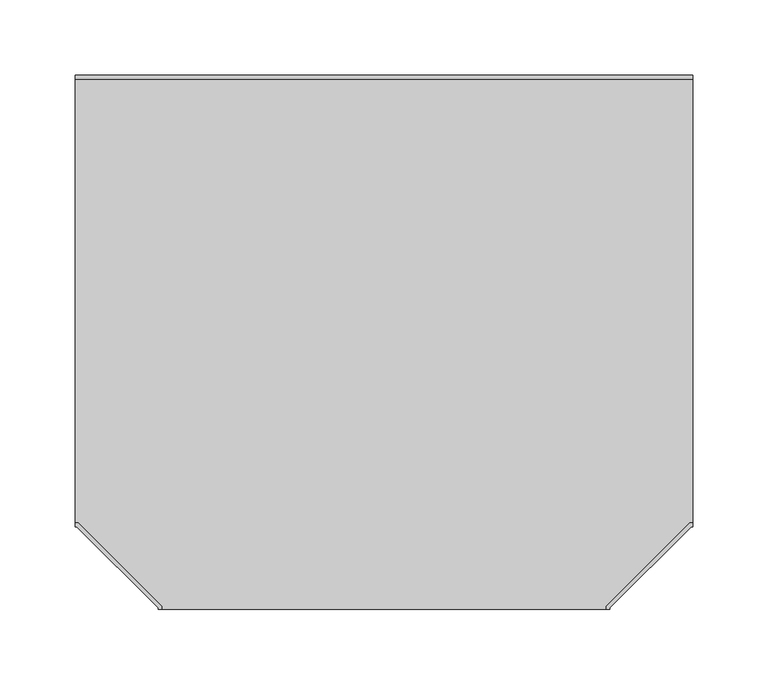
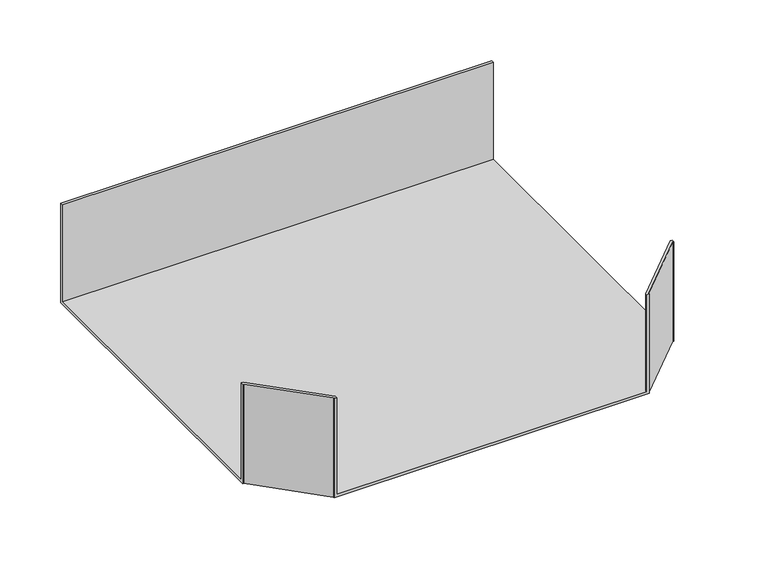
"""IFC4 building model written with IfcOpenShell, lengths in millimetres: cable carrier fitting geometry, BAKS_Horizontal tee : TKJ_H100."""

from ifc_helpers import new_model, si_unit, origin, place, context, project, spatial, faceted_brep, source, transform, mapped, element, save


def cable_carrier_fitting_0afdfe74(model_context):
    return source(origin(), model_context, "Body", "Brep", [
        faceted_brep([(-147.46, -202.9478976, 50.0), (-202.9478976, -147.46, 50.0), (-205.0, -147.46, 50.0), (-205.0, -150.0, 50.0), (-204.0, -150.0, 50.0), (-150.0, -204.0, 50.0), (-150.0, -205.0, 50.0), (-147.46, -205.0, 50.0), (147.46, -202.9478976, 50.0), (147.46, -205.0, 50.0), (150.0, -205.0, 50.0), (150.0, -204.0, 50.0), (204.0, -150.0, 50.0), (205.0, -150.0, 50.0), (205.0, -147.46, 50.0), (202.9478976, -147.46, 50.0), (205.0, 150.0, 50.0), (-205.0, 150.0, 50.0), (-205.0, 147.46, 50.0), (205.0, 147.46, 50.0), (-150.0, -205.0, -50.0), (-150.0, -204.0, -50.0), (-204.0, -150.0, -50.0), (-205.0, -150.0, -50.0), (-205.0, 150.0, -50.0), (205.0, 150.0, -50.0), (205.0, -150.0, -50.0), (204.0, -150.0, -50.0), (150.0, -204.0, -50.0), (150.0, -205.0, -50.0), (-147.46, -202.9478976, -47.46), (-202.9478976, -147.46, -47.46), (-205.0, -147.46, -47.46), (-205.0, 147.46, -47.46), (-204.0, -150.0, -47.46), (-150.0, -204.0, -47.46), (147.46, -205.0, -47.46), (-147.46, -205.0, -47.46), (150.0, -204.0, -47.46), (204.0, -150.0, -47.46), (205.0, 147.46, -47.46), (205.0, -147.46, -47.46), (202.9478976, -147.46, -47.46), (147.46, -202.9478976, -47.46)], [[[0, 1, 2, 3, 4, 5, 6, 7]], [[8, 9, 10, 11, 12, 13, 14, 15]], [[16, 17, 18, 19]], [[20, 21, 22, 23, 24, 25, 26, 27, 28, 29]], [[1, 0, 30, 31]], [[2, 1, 31, 32]], [[3, 2, 32, 33, 18, 17, 24, 23]], [[4, 3, 23, 22, 34]], [[5, 4, 34, 22, 21, 35]], [[20, 6, 5, 35, 21]], [[7, 6, 20, 29, 10, 9, 36, 37]], [[0, 7, 37, 30]], [[12, 11, 38, 28, 27, 39]], [[26, 13, 12, 39, 27]], [[14, 13, 26, 25, 16, 19, 40, 41]], [[15, 14, 41, 42]], [[8, 15, 42, 43]], [[9, 8, 43, 36]], [[11, 10, 29, 28, 38]], [[24, 17, 16, 25]], [[19, 18, 33, 40]], [[37, 36, 43, 42, 41, 40, 33, 32, 31, 30]]]),
    ])


if __name__ == "__main__":
    model = new_model("IFC4")
    model_context = context("Model", 3, world=origin())
    ifc_project = project(units=[si_unit("LENGTHUNIT", "METRE", prefix="MILLI")], contexts=[model_context])
    site = spatial("IfcSite", under=ifc_project)
    building = spatial("IfcBuilding", under=site)
    placement = place(None, origin())
    cable_carrier_fitting_shape = cable_carrier_fitting_0afdfe74(model_context)
    element("IfcCableCarrierFitting", 1, ObjectType="BAKS_Horizontal tee : TKJ_H100", at=placement, inside=building, context=model_context, shape_type="MappedRepresentation", body=[
        mapped(cable_carrier_fitting_shape, transform((0.0, 0.0, 0.0), x_axis=(1.0, 0.0, 0.0), y_axis=(0.0, 1.0, 0.0), z_axis=(0.0, 0.0, 1.0))),
    ])
    save(model, "model.ifc")
